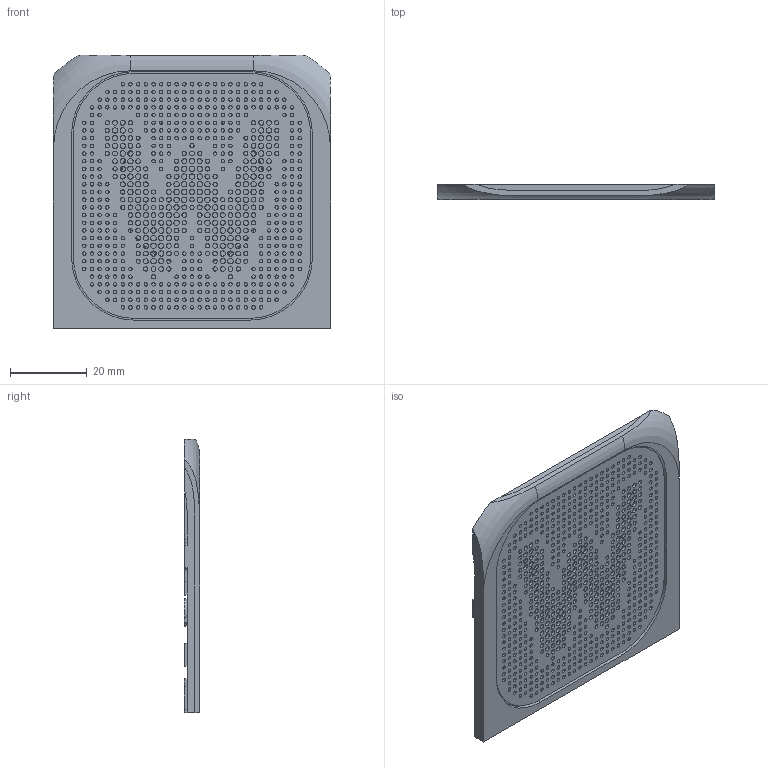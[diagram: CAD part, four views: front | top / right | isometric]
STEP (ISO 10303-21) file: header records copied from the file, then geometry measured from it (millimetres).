
FILE_DESCRIPTION(('Open CASCADE Model'),'2;1');
FILE_NAME('Open CASCADE Shape Model','2026-09-06T11:35:34',('Author'),( 'Open CASCADE'),'Open CASCADE STEP processor 7.8','build123d', 'Unknown');
FILE_SCHEMA(('AUTOMOTIVE_DESIGN { 1 0 10303 214 1 1 1 1 }'));
Length unit declared in the file: millimetre
Products named in the file (9): ASSEMBLY; front_chassis_PA12; front_grip_skin_finegrain_cream; grille_W_perforated_0_8mm_charcoal; SOLID; grille_perimeter_PSA_0_13; REFERENCE_porous_mesh_envelope_NOT_SOLID_PRINT; coupon_only_backing_retainer
Assembly tree (8 placements, depth 3):
  ASSEMBLY
    front_chassis_PA12
    front_grip_skin_finegrain_cream
    grille_W_perforated_0_8mm_charcoal
      SOLID
    grille_perimeter_PSA_0_13
      SOLID
    REFERENCE_porous_mesh_envelope_NOT_SOLID_PRINT
    coupon_only_backing_retainer
Bounding box: 72 x 3.9 x 71 mm (x, y, z)
Volume: 11726.1 mm3; surface area: 23418.9 mm2
Topology: 6 solids, 6 shells, 866 faces, 2528 edges, 1686 vertices
Faces by surface type: cylinder 757, plane 99, torus 10
Full cylindrical faces by diameter (mm): 0.9 x452, 1.1 x85, 1.25 x73, 1.4 x111, 3.2 x2, 36 x1, 38 x1, 38.5 x2
Entity records: 67171 total; most frequent: CARTESIAN_POINT 12060, DIRECTION 10757, ORIENTED_EDGE 5056, PCURVE 5056, DEFINITIONAL_REPRESENTATION 5056, LINE 4435, VECTOR 4435, CIRCLE 3036
